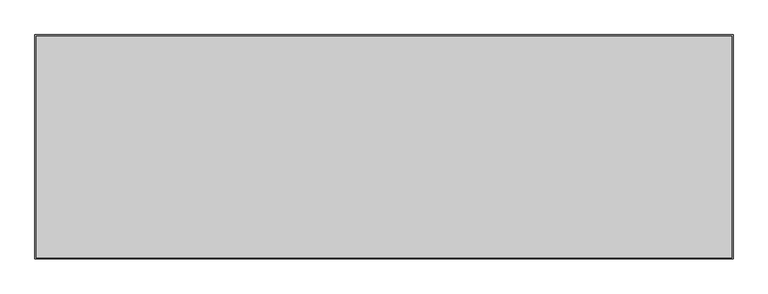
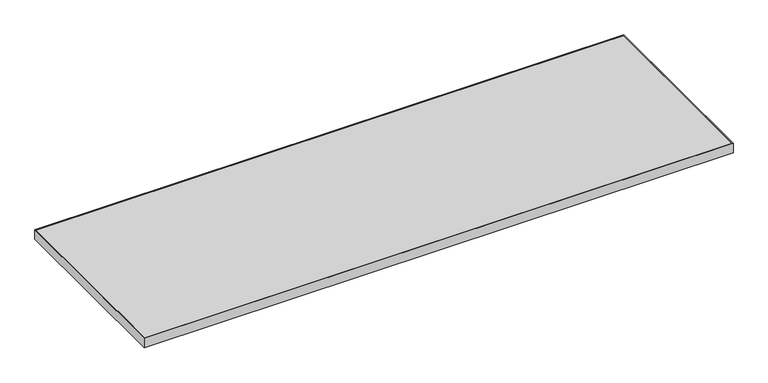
"""IFC4 building model written with IfcOpenShell, lengths in millimetres: furniture geometry, Steelcase - Universal Storage - Square Edge Top - Flush Front - Laminate : Common Top - 24D x 72W."""

from ifc_helpers import new_model, si_unit, frame, origin, place, context, project, spatial, polyline, outline, extrude, source, transform, mapped, element, save


def furniture_c89e18d3(model_context):
    return source(origin(), model_context, "Body", "SweptSolid", [
        extrude(outline(polyline([(1825.7520001, -3.0479999), (1825.7520001, -584.4540001), (3.0479999, -584.4540001), (3.0479999, -3.0479999), (1825.7520001, -3.0479999)])), frame((0.0, 0.0, 680.72), z_axis=(0.0, 0.0, 1.0), x_axis=(1.0, 0.0, 0.0)), (0.0, 0.0, 1.0), 30.48),
        extrude(outline(polyline([(1828.8, 0.0), (1828.8, -587.502), (0.0, -587.502), (0.0, 0.0), (1828.8, 0.0)]), holes=[polyline([(1825.7520001, -3.0479999), (3.0479999, -3.0479999), (3.0479999, -584.4540001), (1825.7520001, -584.4540001), (1825.7520001, -3.0479999)])]), frame((0.0, 0.0, 680.72), z_axis=(0.0, 0.0, 1.0), x_axis=(1.0, 0.0, 0.0)), (0.0, 0.0, 1.0), 30.48),
    ])


if __name__ == "__main__":
    model = new_model("IFC4")
    model_context = context("Model", 3, world=origin())
    ifc_project = project(units=[si_unit("LENGTHUNIT", "METRE", prefix="MILLI")], contexts=[model_context])
    site = spatial("IfcSite", under=ifc_project)
    building = spatial("IfcBuilding", under=site)
    placement = place(None, origin())
    furniture_shape = furniture_c89e18d3(model_context)
    element("IfcFurniture", 1, ObjectType="Steelcase - Universal Storage - Square Edge Top - Flush Front - Laminate : Common Top - 24D x 72W", at=placement, inside=building, context=model_context, shape_type="MappedRepresentation", body=[
        mapped(furniture_shape, transform((0.0, 0.0, 0.0), x_axis=(1.0, 0.0, 0.0), y_axis=(0.0, 1.0, 0.0), z_axis=(0.0, 0.0, 1.0))),
    ])
    save(model, "model.ifc")
